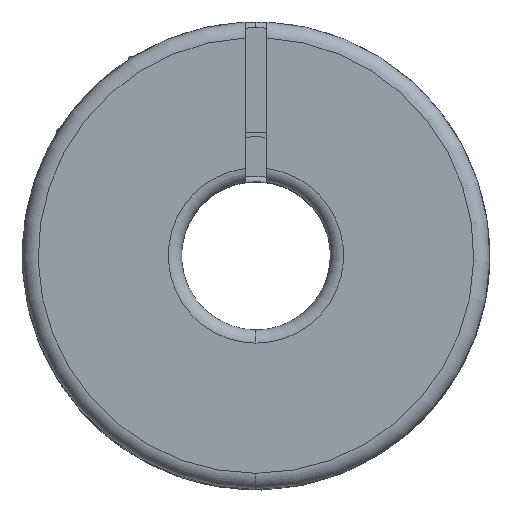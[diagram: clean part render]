
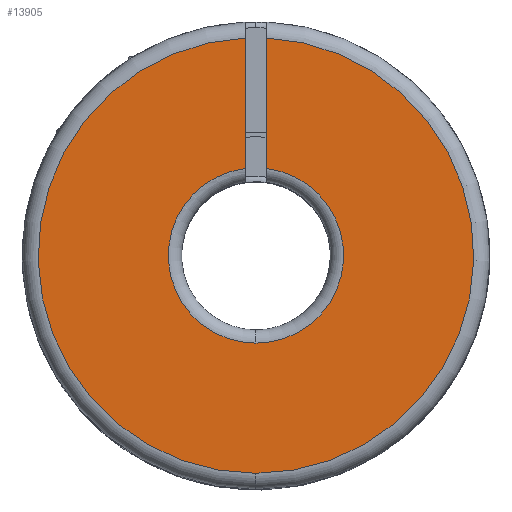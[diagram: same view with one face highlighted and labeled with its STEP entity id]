
A CAD part, top view. The second image highlights one B-rep face of the part: STEP entity #13905.
In plain terms, the highlighted planar face has unit normal (0, 0, 1).
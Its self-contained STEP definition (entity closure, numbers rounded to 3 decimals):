
#8046 = CARTESIAN_POINT ( 'NONE',  ( -2.172, 24.15, 31.541 ) ) ;
#8047 = DIRECTION ( 'NONE',  ( 0., -1., 0. ) ) ;
#8048 = DIRECTION ( 'NONE',  ( 0., 0., 1. ) ) ;
#8049 = AXIS2_PLACEMENT_3D ( 'NONE', #8055, #8048, #8047 ) ;
#8050 = CIRCLE ( 'NONE', #8049, 20.5 ) ;
#8055 = CARTESIAN_POINT ( 'NONE',  ( -1.172, 3.674, 31.541 ) ) ;
#8065 = DIRECTION ( 'NONE',  ( 0., 1., 0. ) ) ;
#8066 = VECTOR ( 'NONE', #8065, 1000. ) ;
#8067 = CARTESIAN_POINT ( 'NONE',  ( -2.172, 3.674, 31.541 ) ) ;
#8068 = LINE ( 'NONE', #8067, #8066 ) ;
#8146 = DIRECTION ( 'NONE',  ( 0., 1., 0. ) ) ;
#8147 = VECTOR ( 'NONE', #8146, 1000. ) ;
#8148 = CARTESIAN_POINT ( 'NONE',  ( -0.172, 3.674, 31.541 ) ) ;
#8149 = LINE ( 'NONE', #8148, #8147 ) ;
#8150 = DIRECTION ( 'NONE',  ( 0., -1., 0. ) ) ;
#8151 = DIRECTION ( 'NONE',  ( 0., 0., -1. ) ) ;
#8152 = CARTESIAN_POINT ( 'NONE',  ( -1.172, 3.674, 31.541 ) ) ;
#8153 = AXIS2_PLACEMENT_3D ( 'NONE', #8152, #8151, #8150 ) ;
#8154 = PLANE ( 'NONE',  #8153 ) ;
#8155 = DIRECTION ( 'NONE',  ( 0., -1., 0. ) ) ;
#8156 = DIRECTION ( 'NONE',  ( 0., 0., -1. ) ) ;
#8157 = CARTESIAN_POINT ( 'NONE',  ( -1.172, 3.674, 31.541 ) ) ;
#8158 = AXIS2_PLACEMENT_3D ( 'NONE', #8157, #8156, #8155 ) ;
#8159 = FACE_OUTER_BOUND ( 'NONE', #13906, .T. ) ;
#8168 = CIRCLE ( 'NONE', #8158, 8.25 ) ;
#8169 = CARTESIAN_POINT ( 'NONE',  ( -2.172, 11.863, 31.541 ) ) ;
#13851 = ORIENTED_EDGE ( 'NONE', *, *, #13904, .T. ) ;
#13852 = ORIENTED_EDGE ( 'NONE', *, *, #13853, .T. ) ;
#13853 = EDGE_CURVE ( 'NONE', #13902, #13864, #8068, .T. ) ;
#13854 = ORIENTED_EDGE ( 'NONE', *, *, #13863, .T. ) ;
#13855 = ORIENTED_EDGE ( 'NONE', *, *, #14028, .T. ) ;
#13863 = EDGE_CURVE ( 'NONE', #13864, #14027, #8050, .T. ) ;
#13864 = VERTEX_POINT ( 'NONE', #8046 ) ;
#13902 = VERTEX_POINT ( 'NONE', #8169 ) ;
#13904 = EDGE_CURVE ( 'NONE', #13968, #13902, #8168, .T. ) ;
#13905 = ADVANCED_FACE ( 'NONE', ( #8159 ), #8154, .F. ) ;
#13906 = EDGE_LOOP ( 'NONE', ( #13907, #13909, #13851, #13852, #13854, #13855 ) ) ;
#13907 = ORIENTED_EDGE ( 'NONE', *, *, #13908, .F. ) ;
#13908 = EDGE_CURVE ( 'NONE', #13971, #14029, #8149, .T. ) ;
#13909 = ORIENTED_EDGE ( 'NONE', *, *, #13970, .T. ) ;
#13968 = VERTEX_POINT ( 'NONE', #14928 ) ;
#13970 = EDGE_CURVE ( 'NONE', #13971, #13968, #14927, .T. ) ;
#13971 = VERTEX_POINT ( 'NONE', #14922 ) ;
#14027 = VERTEX_POINT ( 'NONE', #15034 ) ;
#14028 = EDGE_CURVE ( 'NONE', #14027, #14029, #15029, .T. ) ;
#14029 = VERTEX_POINT ( 'NONE', #15024 ) ;
#14922 = CARTESIAN_POINT ( 'NONE',  ( -0.172, 11.863, 31.541 ) ) ;
#14923 = DIRECTION ( 'NONE',  ( 0., -1., 0. ) ) ;
#14924 = DIRECTION ( 'NONE',  ( 0., 0., -1. ) ) ;
#14925 = CARTESIAN_POINT ( 'NONE',  ( -1.172, 3.674, 31.541 ) ) ;
#14926 = AXIS2_PLACEMENT_3D ( 'NONE', #14925, #14924, #14923 ) ;
#14927 = CIRCLE ( 'NONE', #14926, 8.25 ) ;
#14928 = CARTESIAN_POINT ( 'NONE',  ( -1.172, -4.576, 31.541 ) ) ;
#15024 = CARTESIAN_POINT ( 'NONE',  ( -0.172, 24.15, 31.541 ) ) ;
#15025 = DIRECTION ( 'NONE',  ( 0., -1., 0. ) ) ;
#15026 = DIRECTION ( 'NONE',  ( 0., 0., 1. ) ) ;
#15027 = CARTESIAN_POINT ( 'NONE',  ( -1.172, 3.674, 31.541 ) ) ;
#15028 = AXIS2_PLACEMENT_3D ( 'NONE', #15027, #15026, #15025 ) ;
#15029 = CIRCLE ( 'NONE', #15028, 20.5 ) ;
#15034 = CARTESIAN_POINT ( 'NONE',  ( -1.172, -16.826, 31.541 ) ) ;
